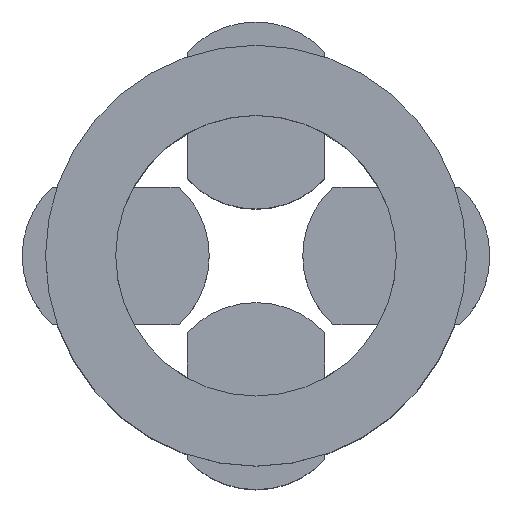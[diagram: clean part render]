
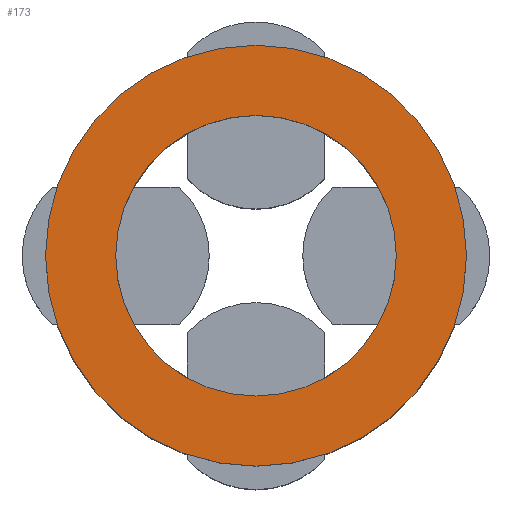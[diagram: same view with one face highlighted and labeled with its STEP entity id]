
A CAD part, top view. The second image highlights one B-rep face of the part: STEP entity #173.
In plain terms, the highlighted planar face has unit normal (0, 0, 1).
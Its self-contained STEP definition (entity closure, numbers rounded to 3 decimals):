
#135=PLANE('',#895);
#173=ADVANCED_FACE('',(#371,#372),#135,.T.);
#371=FACE_BOUND('',#395,.T.);
#372=FACE_BOUND('',#396,.T.);
#395=EDGE_LOOP('',(#483));
#396=EDGE_LOOP('',(#484));
#483=ORIENTED_EDGE('',*,*,#746,.F.);
#484=ORIENTED_EDGE('',*,*,#763,.T.);
#674=VERTEX_POINT('',#1243);
#691=VERTEX_POINT('',#1278);
#746=EDGE_CURVE('',#674,#674,#842,.T.);
#763=EDGE_CURVE('',#691,#691,#851,.T.);
#842=CIRCLE('',#884,3.);
#851=CIRCLE('',#894,4.5);
#884=AXIS2_PLACEMENT_3D('',#1242,#994,#995);
#894=AXIS2_PLACEMENT_3D('',#1277,#1022,#1023);
#895=AXIS2_PLACEMENT_3D('',#1279,#1024,#1025);
#994=DIRECTION('',(0.,0.,1.));
#995=DIRECTION('',(1.,0.,0.));
#1022=DIRECTION('',(0.,0.,1.));
#1023=DIRECTION('',(1.,0.,0.));
#1024=DIRECTION('',(0.,0.,1.));
#1025=DIRECTION('',(1.,0.,0.));
#1242=CARTESIAN_POINT('',(0.,0.,7.));
#1243=CARTESIAN_POINT('',(3.,0.,7.));
#1277=CARTESIAN_POINT('',(0.,0.,7.));
#1278=CARTESIAN_POINT('',(4.5,0.,7.));
#1279=CARTESIAN_POINT('',(0.,0.,7.));
